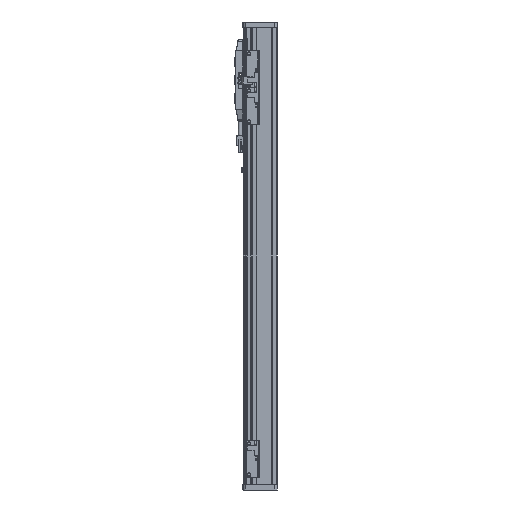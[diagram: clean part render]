
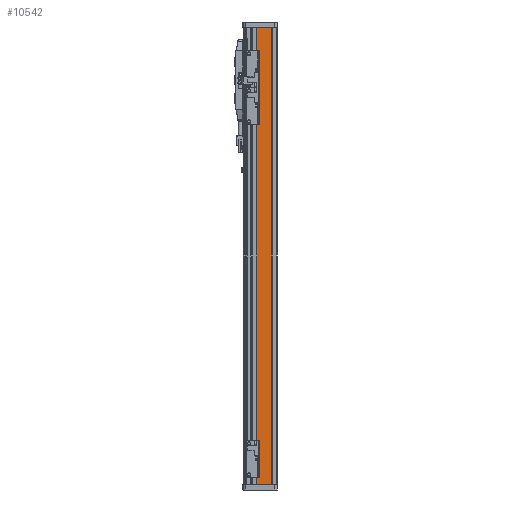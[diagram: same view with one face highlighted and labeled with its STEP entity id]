
A CAD part, left-side view. The second image highlights one B-rep face of the part: STEP entity #10542.
In plain terms, the highlighted planar face has unit normal (-1, 0, 0).
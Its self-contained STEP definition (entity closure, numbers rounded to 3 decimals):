
#152 = PLANE('',#153);
#153 = AXIS2_PLACEMENT_3D('',#154,#155,#156);
#154 = CARTESIAN_POINT('',(0.,0.,325.));
#155 = DIRECTION('',(-0.,0.,1.));
#156 = DIRECTION('',(1.,0.,0.));
#993 = PLANE('',#994);
#994 = AXIS2_PLACEMENT_3D('',#995,#996,#997);
#995 = CARTESIAN_POINT('',(0.,0.,-325.));
#996 = DIRECTION('',(-0.,0.,1.));
#997 = DIRECTION('',(1.,0.,0.));
#5335 = PLANE('',#5336);
#5336 = AXIS2_PLACEMENT_3D('',#5337,#5338,#5339);
#5337 = CARTESIAN_POINT('',(-27.5,-17.,320.));
#5338 = DIRECTION('',(-0.707,0.707,0.));
#5339 = DIRECTION('',(0.,0.,1.));
#5737 = VERTEX_POINT('',#5738);
#5738 = CARTESIAN_POINT('',(-27.1,4.6,325.));
#5752 = PLANE('',#5753);
#5753 = AXIS2_PLACEMENT_3D('',#5754,#5755,#5756);
#5754 = CARTESIAN_POINT('',(-27.1,4.6,320.));
#5755 = DIRECTION('',(-0.707,-0.707,0.));
#5756 = DIRECTION('',(0.,0.,1.));
#5764 = EDGE_CURVE('',#5737,#5765,#5767,.T.);
#5765 = VERTEX_POINT('',#5766);
#5766 = CARTESIAN_POINT('',(-27.1,-16.6,325.));
#5767 = SURFACE_CURVE('',#5768,(#5772,#5779),.PCURVE_S1.);
#5768 = LINE('',#5769,#5770);
#5769 = CARTESIAN_POINT('',(-27.1,8.,325.));
#5770 = VECTOR('',#5771,1.);
#5771 = DIRECTION('',(0.,-1.,0.));
#5772 = PCURVE('',#152,#5773);
#5773 = DEFINITIONAL_REPRESENTATION('',(#5774),#5778);
#5774 = LINE('',#5775,#5776);
#5775 = CARTESIAN_POINT('',(-27.1,8.));
#5776 = VECTOR('',#5777,1.);
#5777 = DIRECTION('',(0.,-1.));
#5778 = ( GEOMETRIC_REPRESENTATION_CONTEXT(2) 
PARAMETRIC_REPRESENTATION_CONTEXT() REPRESENTATION_CONTEXT('2D SPACE',''
  ) );
#5779 = PCURVE('',#5780,#5785);
#5780 = PLANE('',#5781);
#5781 = AXIS2_PLACEMENT_3D('',#5782,#5783,#5784);
#5782 = CARTESIAN_POINT('',(-27.1,8.,320.));
#5783 = DIRECTION('',(1.,0.,0.));
#5784 = DIRECTION('',(0.,1.,0.));
#5785 = DEFINITIONAL_REPRESENTATION('',(#5786),#5790);
#5786 = LINE('',#5787,#5788);
#5787 = CARTESIAN_POINT('',(0.,5.));
#5788 = VECTOR('',#5789,1.);
#5789 = DIRECTION('',(-1.,0.));
#5790 = ( GEOMETRIC_REPRESENTATION_CONTEXT(2) 
PARAMETRIC_REPRESENTATION_CONTEXT() REPRESENTATION_CONTEXT('2D SPACE',''
  ) );
#6804 = VERTEX_POINT('',#6805);
#6805 = CARTESIAN_POINT('',(-27.1,-16.6,-325.));
#6826 = EDGE_CURVE('',#6804,#6827,#6829,.T.);
#6827 = VERTEX_POINT('',#6828);
#6828 = CARTESIAN_POINT('',(-27.1,4.6,-325.));
#6829 = SURFACE_CURVE('',#6830,(#6834,#6841),.PCURVE_S1.);
#6830 = LINE('',#6831,#6832);
#6831 = CARTESIAN_POINT('',(-27.1,0.,-325.));
#6832 = VECTOR('',#6833,1.);
#6833 = DIRECTION('',(0.,1.,0.));
#6834 = PCURVE('',#993,#6835);
#6835 = DEFINITIONAL_REPRESENTATION('',(#6836),#6840);
#6836 = LINE('',#6837,#6838);
#6837 = CARTESIAN_POINT('',(-27.1,0.));
#6838 = VECTOR('',#6839,1.);
#6839 = DIRECTION('',(0.,1.));
#6840 = ( GEOMETRIC_REPRESENTATION_CONTEXT(2) 
PARAMETRIC_REPRESENTATION_CONTEXT() REPRESENTATION_CONTEXT('2D SPACE',''
  ) );
#6841 = PCURVE('',#5780,#6842);
#6842 = DEFINITIONAL_REPRESENTATION('',(#6843),#6847);
#6843 = LINE('',#6844,#6845);
#6844 = CARTESIAN_POINT('',(-8.,-645.));
#6845 = VECTOR('',#6846,1.);
#6846 = DIRECTION('',(1.,0.));
#6847 = ( GEOMETRIC_REPRESENTATION_CONTEXT(2) 
PARAMETRIC_REPRESENTATION_CONTEXT() REPRESENTATION_CONTEXT('2D SPACE',''
  ) );
#10542 = ADVANCED_FACE('',(#10543),#5780,.F.);
#10543 = FACE_BOUND('',#10544,.T.);
#10544 = EDGE_LOOP('',(#10545,#10546,#10567,#10568));
#10545 = ORIENTED_EDGE('',*,*,#5764,.F.);
#10546 = ORIENTED_EDGE('',*,*,#10547,.T.);
#10547 = EDGE_CURVE('',#5737,#6827,#10548,.T.);
#10548 = SURFACE_CURVE('',#10549,(#10553,#10560),.PCURVE_S1.);
#10549 = LINE('',#10550,#10551);
#10550 = CARTESIAN_POINT('',(-27.1,4.6,-320.));
#10551 = VECTOR('',#10552,1.);
#10552 = DIRECTION('',(0.,0.,-1.));
#10553 = PCURVE('',#5780,#10554);
#10554 = DEFINITIONAL_REPRESENTATION('',(#10555),#10559);
#10555 = LINE('',#10556,#10557);
#10556 = CARTESIAN_POINT('',(-3.4,-640.));
#10557 = VECTOR('',#10558,1.);
#10558 = DIRECTION('',(0.,-1.));
#10559 = ( GEOMETRIC_REPRESENTATION_CONTEXT(2) 
PARAMETRIC_REPRESENTATION_CONTEXT() REPRESENTATION_CONTEXT('2D SPACE',''
  ) );
#10560 = PCURVE('',#5752,#10561);
#10561 = DEFINITIONAL_REPRESENTATION('',(#10562),#10566);
#10562 = LINE('',#10563,#10564);
#10563 = CARTESIAN_POINT('',(-640.,0.));
#10564 = VECTOR('',#10565,1.);
#10565 = DIRECTION('',(-1.,0.));
#10566 = ( GEOMETRIC_REPRESENTATION_CONTEXT(2) 
PARAMETRIC_REPRESENTATION_CONTEXT() REPRESENTATION_CONTEXT('2D SPACE',''
  ) );
#10567 = ORIENTED_EDGE('',*,*,#6826,.F.);
#10568 = ORIENTED_EDGE('',*,*,#10569,.T.);
#10569 = EDGE_CURVE('',#6804,#5765,#10570,.T.);
#10570 = SURFACE_CURVE('',#10571,(#10575,#10582),.PCURVE_S1.);
#10571 = LINE('',#10572,#10573);
#10572 = CARTESIAN_POINT('',(-27.1,-16.6,320.));
#10573 = VECTOR('',#10574,1.);
#10574 = DIRECTION('',(0.,0.,1.));
#10575 = PCURVE('',#5780,#10576);
#10576 = DEFINITIONAL_REPRESENTATION('',(#10577),#10581);
#10577 = LINE('',#10578,#10579);
#10578 = CARTESIAN_POINT('',(-24.6,0.));
#10579 = VECTOR('',#10580,1.);
#10580 = DIRECTION('',(0.,1.));
#10581 = ( GEOMETRIC_REPRESENTATION_CONTEXT(2) 
PARAMETRIC_REPRESENTATION_CONTEXT() REPRESENTATION_CONTEXT('2D SPACE',''
  ) );
#10582 = PCURVE('',#5335,#10583);
#10583 = DEFINITIONAL_REPRESENTATION('',(#10584),#10588);
#10584 = LINE('',#10585,#10586);
#10585 = CARTESIAN_POINT('',(0.,0.566));
#10586 = VECTOR('',#10587,1.);
#10587 = DIRECTION('',(1.,0.));
#10588 = ( GEOMETRIC_REPRESENTATION_CONTEXT(2) 
PARAMETRIC_REPRESENTATION_CONTEXT() REPRESENTATION_CONTEXT('2D SPACE',''
  ) );
